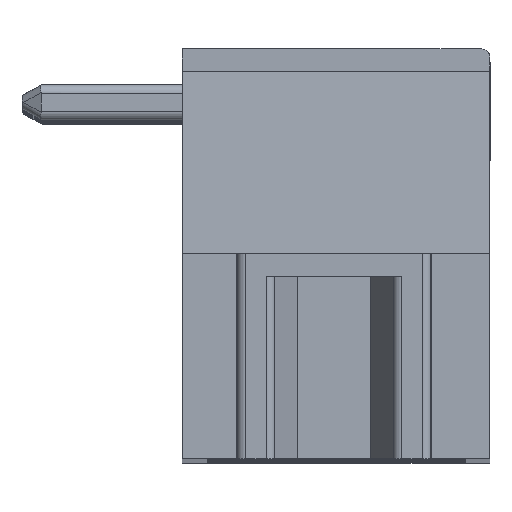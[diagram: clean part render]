
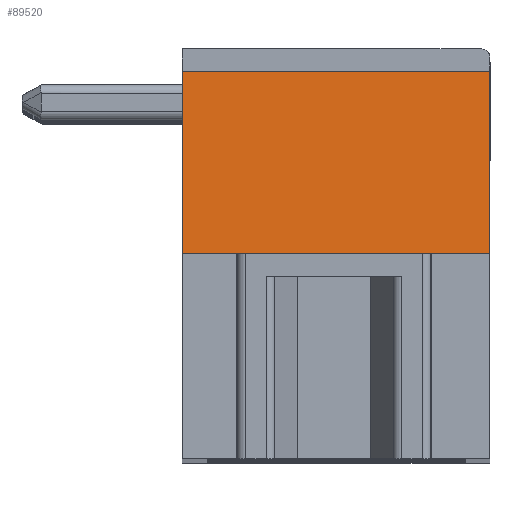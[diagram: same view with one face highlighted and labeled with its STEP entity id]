
A CAD part, top view. The second image highlights one B-rep face of the part: STEP entity #89520.
In plain terms, the highlighted planar face has unit normal (0, 0.073, 0.997).
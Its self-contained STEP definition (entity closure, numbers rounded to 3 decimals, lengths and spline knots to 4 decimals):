
#15923 = CARTESIAN_POINT ( 'NONE',  ( 0.6189, -0.1024, 0. ) ) ;
#15925 = CARTESIAN_POINT ( 'NONE',  ( -2.8811, -0.1024, 0. ) ) ;
#15926 = DIRECTION ( 'NONE',  ( 1., 0., 0. ) ) ;
#15927 = VECTOR ( 'NONE', #15926, 1000. ) ;
#15928 = CARTESIAN_POINT ( 'NONE',  ( -1.1311, -0.1024, 0. ) ) ;
#15929 = LINE ( 'NONE', #15928, #15927 ) ;
#21607 = CARTESIAN_POINT ( 'NONE',  ( 2.3689, 3.9976, -0.3 ) ) ;
#21705 = DIRECTION ( 'NONE',  ( 0., -0.997, 0.073 ) ) ;
#21706 = VECTOR ( 'NONE', #21705, 1000. ) ;
#21707 = CARTESIAN_POINT ( 'NONE',  ( 2.3689, 3.9976, -0.3 ) ) ;
#21708 = LINE ( 'NONE', #21707, #21706 ) ;
#21715 = CARTESIAN_POINT ( 'NONE',  ( 2.3689, -0.1024, 0. ) ) ;
#32795 = DIRECTION ( 'NONE',  ( 0., -0.997, 0.073 ) ) ;
#32796 = DIRECTION ( 'NONE',  ( 0., 0.073, 0.997 ) ) ;
#32797 = CARTESIAN_POINT ( 'NONE',  ( 2.3689, 3.9976, -0.3 ) ) ;
#32798 = AXIS2_PLACEMENT_3D ( 'NONE', #32797, #32796, #32795 ) ;
#32799 = PLANE ( 'NONE',  #32798 ) ;
#32804 = FACE_OUTER_BOUND ( 'NONE', #89524, .T. ) ;
#32993 = VECTOR ( 'NONE', #33058, 1000. ) ;
#32994 = CARTESIAN_POINT ( 'NONE',  ( 2.3689, -0.1024, 0. ) ) ;
#32995 = LINE ( 'NONE', #32994, #32993 ) ;
#32996 = DIRECTION ( 'NONE',  ( -1., 0., 0. ) ) ;
#32997 = VECTOR ( 'NONE', #32996, 1000. ) ;
#32998 = CARTESIAN_POINT ( 'NONE',  ( 2.3689, -0.1024, 0. ) ) ;
#32999 = LINE ( 'NONE', #32998, #32997 ) ;
#33001 = DIRECTION ( 'NONE',  ( -1., 0., 0. ) ) ;
#33002 = VECTOR ( 'NONE', #33001, 1000. ) ;
#33009 = CARTESIAN_POINT ( 'NONE',  ( 2.3689, 3.9976, -0.3 ) ) ;
#33010 = LINE ( 'NONE', #33009, #33002 ) ;
#33058 = DIRECTION ( 'NONE',  ( -1., 0., 0. ) ) ;
#71772 = VERTEX_POINT ( 'NONE', #97636 ) ;
#71785 = EDGE_CURVE ( 'NONE', #71838, #71772, #97671, .T. ) ;
#71838 = VERTEX_POINT ( 'NONE', #97785 ) ;
#81247 = EDGE_CURVE ( 'NONE', #81249, #81250, #15929, .T. ) ;
#81249 = VERTEX_POINT ( 'NONE', #15925 ) ;
#81250 = VERTEX_POINT ( 'NONE', #15923 ) ;
#83733 = VERTEX_POINT ( 'NONE', #21607 ) ;
#83804 = VERTEX_POINT ( 'NONE', #21715 ) ;
#83808 = EDGE_CURVE ( 'NONE', #83733, #83804, #21708, .T. ) ;
#89520 = ADVANCED_FACE ( 'NONE', ( #32804 ), #32799, .T. ) ;
#89524 = EDGE_LOOP ( 'NONE', ( #89526, #89649, #89651, #89655, #89656, #89660 ) ) ;
#89526 = ORIENTED_EDGE ( 'NONE', *, *, #89647, .T. ) ;
#89647 = EDGE_CURVE ( 'NONE', #83733, #71838, #33010, .T. ) ;
#89649 = ORIENTED_EDGE ( 'NONE', *, *, #71785, .T. ) ;
#89651 = ORIENTED_EDGE ( 'NONE', *, *, #89653, .F. ) ;
#89653 = EDGE_CURVE ( 'NONE', #81249, #71772, #32999, .T. ) ;
#89655 = ORIENTED_EDGE ( 'NONE', *, *, #81247, .T. ) ;
#89656 = ORIENTED_EDGE ( 'NONE', *, *, #89658, .F. ) ;
#89658 = EDGE_CURVE ( 'NONE', #83804, #81250, #32995, .T. ) ;
#89660 = ORIENTED_EDGE ( 'NONE', *, *, #83808, .F. ) ;
#97636 = CARTESIAN_POINT ( 'NONE',  ( -4.5311, -0.1024, 0. ) ) ;
#97668 = DIRECTION ( 'NONE',  ( 0., -0.997, 0.073 ) ) ;
#97669 = VECTOR ( 'NONE', #97668, 1000. ) ;
#97670 = CARTESIAN_POINT ( 'NONE',  ( -4.5311, 3.9976, -0.3 ) ) ;
#97671 = LINE ( 'NONE', #97670, #97669 ) ;
#97785 = CARTESIAN_POINT ( 'NONE',  ( -4.5311, 3.9976, -0.3 ) ) ;
